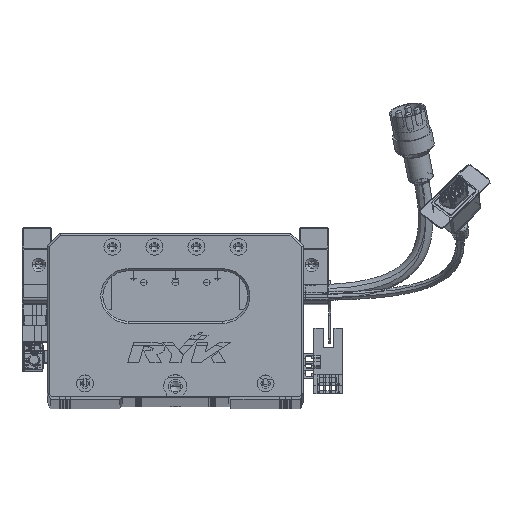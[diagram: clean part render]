
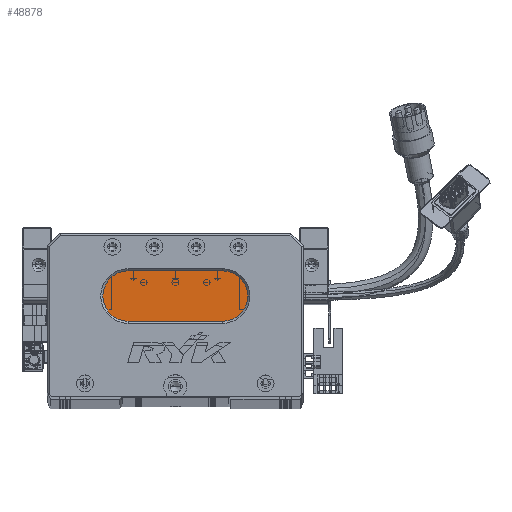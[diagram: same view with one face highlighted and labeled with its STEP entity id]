
A CAD part, top view. The second image highlights one B-rep face of the part: STEP entity #48878.
In plain terms, the highlighted planar face has unit normal (0, 0, 1) as drawn and (0, 0, -1) by its records, which use the part's own axes.
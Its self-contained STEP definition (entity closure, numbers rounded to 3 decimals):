
#647 = EDGE_LOOP ( 'NONE', ( #44226, #117797, #43680, #37741, #7483 ) ) ;
#688 = DIRECTION ( 'NONE',  ( 1., 0., 0. ) ) ;
#3400 = VECTOR ( 'NONE', #72509, 1000. ) ;
#7483 = ORIENTED_EDGE ( 'NONE', *, *, #29913, .T. ) ;
#18819 = DIRECTION ( 'NONE',  ( -1., 0., 0. ) ) ;
#20532 = CARTESIAN_POINT ( 'NONE',  ( 38.5, 36., 13. ) ) ;
#20577 = VERTEX_POINT ( 'NONE', #49937 ) ;
#22792 = CARTESIAN_POINT ( 'NONE',  ( 38.5, 48., 13. ) ) ;
#24058 = DIRECTION ( 'NONE',  ( -1., 0., 0. ) ) ;
#24902 = EDGE_CURVE ( 'NONE', #53775, #70319, #84190, .T. ) ;
#28996 = CARTESIAN_POINT ( 'NONE',  ( 26.5, 48., 13. ) ) ;
#29913 = EDGE_CURVE ( 'NONE', #57894, #20577, #81973, .T. ) ;
#36089 = CIRCLE ( 'NONE', #50192, 12. ) ;
#37741 = ORIENTED_EDGE ( 'NONE', *, *, #63461, .T. ) ;
#39399 = DIRECTION ( 'NONE',  ( 0., 0., -1. ) ) ;
#39613 = DIRECTION ( 'NONE',  ( 0., 0., -1. ) ) ;
#42311 = CARTESIAN_POINT ( 'NONE',  ( 38.5, 60., 13. ) ) ;
#43040 = DIRECTION ( 'NONE',  ( 0., 0., -1. ) ) ;
#43628 = DIRECTION ( 'NONE',  ( 0., 0., -1. ) ) ;
#43680 = ORIENTED_EDGE ( 'NONE', *, *, #24902, .T. ) ;
#43911 = VECTOR ( 'NONE', #688, 1000. ) ;
#44226 = ORIENTED_EDGE ( 'NONE', *, *, #96516, .T. ) ;
#48473 = FACE_OUTER_BOUND ( 'NONE', #647, .T. ) ;
#48878 = ADVANCED_FACE ( 'NONE', ( #48473 ), #120516, .T. ) ;
#49106 = LINE ( 'NONE', #83149, #3400 ) ;
#49937 = CARTESIAN_POINT ( 'NONE',  ( 83.5, 60., 13. ) ) ;
#50192 = AXIS2_PLACEMENT_3D ( 'NONE', #86056, #39613, #18819 ) ;
#53775 = VERTEX_POINT ( 'NONE', #20532 ) ;
#57894 = VERTEX_POINT ( 'NONE', #42311 ) ;
#62594 = CARTESIAN_POINT ( 'NONE',  ( 83.5, 48., 13. ) ) ;
#63461 = EDGE_CURVE ( 'NONE', #70319, #57894, #36089, .T. ) ;
#70319 = VERTEX_POINT ( 'NONE', #28996 ) ;
#72509 = DIRECTION ( 'NONE',  ( -1., 0., 0. ) ) ;
#78114 = DIRECTION ( 'NONE',  ( -1., 0., 0. ) ) ;
#80373 = VERTEX_POINT ( 'NONE', #97169 ) ;
#81730 = DIRECTION ( 'NONE',  ( -1., 0., 0. ) ) ;
#81973 = LINE ( 'NONE', #107533, #43911 ) ;
#83149 = CARTESIAN_POINT ( 'NONE',  ( 83.5, 36., 13. ) ) ;
#84190 = CIRCLE ( 'NONE', #121571, 12. ) ;
#86056 = CARTESIAN_POINT ( 'NONE',  ( 38.5, 48., 13. ) ) ;
#95534 = AXIS2_PLACEMENT_3D ( 'NONE', #62594, #43040, #81730 ) ;
#95629 = AXIS2_PLACEMENT_3D ( 'NONE', #107932, #39399, #78114 ) ;
#96516 = EDGE_CURVE ( 'NONE', #20577, #80373, #97294, .T. ) ;
#97169 = CARTESIAN_POINT ( 'NONE',  ( 83.5, 36., 13. ) ) ;
#97294 = CIRCLE ( 'NONE', #95629, 12. ) ;
#101575 = EDGE_CURVE ( 'NONE', #80373, #53775, #49106, .T. ) ;
#107533 = CARTESIAN_POINT ( 'NONE',  ( 83.5, 60., 13. ) ) ;
#107932 = CARTESIAN_POINT ( 'NONE',  ( 83.5, 48., 13. ) ) ;
#117797 = ORIENTED_EDGE ( 'NONE', *, *, #101575, .T. ) ;
#120516 = PLANE ( 'NONE',  #95534 ) ;
#121571 = AXIS2_PLACEMENT_3D ( 'NONE', #22792, #43628, #24058 ) ;
